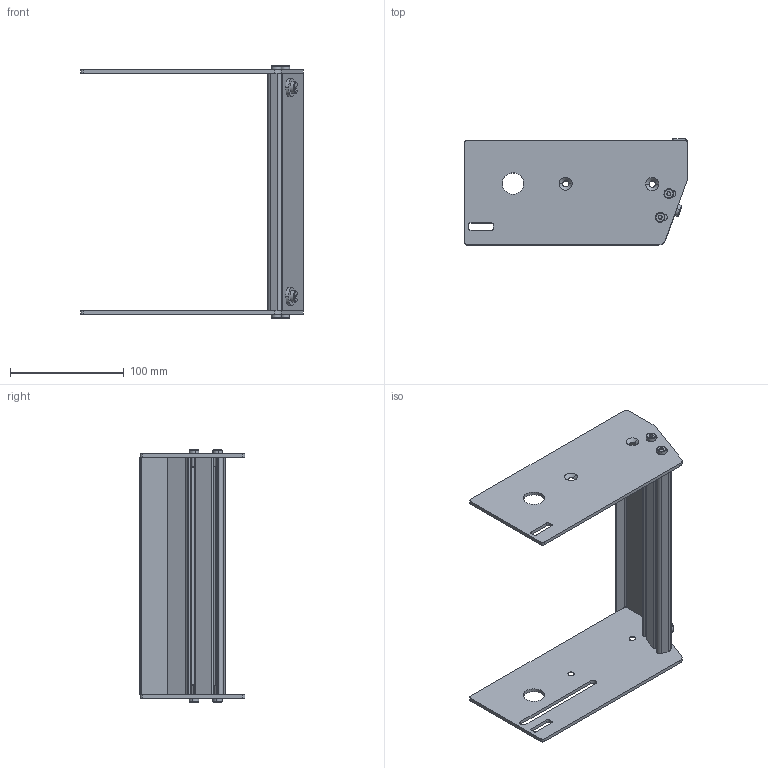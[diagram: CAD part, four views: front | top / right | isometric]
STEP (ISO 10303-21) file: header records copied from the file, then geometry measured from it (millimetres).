
FILE_DESCRIPTION((''),'2;1');
FILE_NAME('351199-08_ASM','2023-03-15T',('jenni.wallner'),(''),'PRO/ENGINEER BY PARAMETRIC TECHNOLOGY CORPORATION, 2012420','PRO/ENGINEER BY PARAMETRIC TECHNOLOGY CORPORATION, 2012420','');
FILE_SCHEMA(('CONFIG_CONTROL_DESIGN'));
Length unit declared in the file: inch
Products named in the file (10): 990603M; 605279P; 351203-WW_351203-08; 351200_DEFAULT_AS_MACHINED_; 9505XXM_950512M; 351201; 9506XXM_950612M; 351202-WW_351202-08; ASM0001_ASM; 351199-08_ASM
Assembly tree (15 placements, depth 3):
  351199-08_ASM
    ASM0001_ASM
      990603M  x2
      605279P  x2
      351203-WW_351203-08
      351200_DEFAULT_AS_MACHINED_
      9505XXM_950512M  x4
      351201
      9506XXM_950612M  x2
      351202-WW_351202-08
Bounding box: 196.11 x 93.08 x 222.29 mm (x, y, z)
Volume: 187130.8 mm3; surface area: 145600.8 mm2
Topology: 14 solids, 14 shells, 337 faces, 809 edges, 512 vertices
Faces by surface type: plane 150, cylinder 119, cone 68
Entity records: 7475 total; most frequent: CARTESIAN_POINT 1363, DIRECTION 1336, ORIENTED_EDGE 1172, EDGE_CURVE 586, AXIS2_PLACEMENT_3D 501, VERTEX_POINT 380, VECTOR 334, LINE 334
